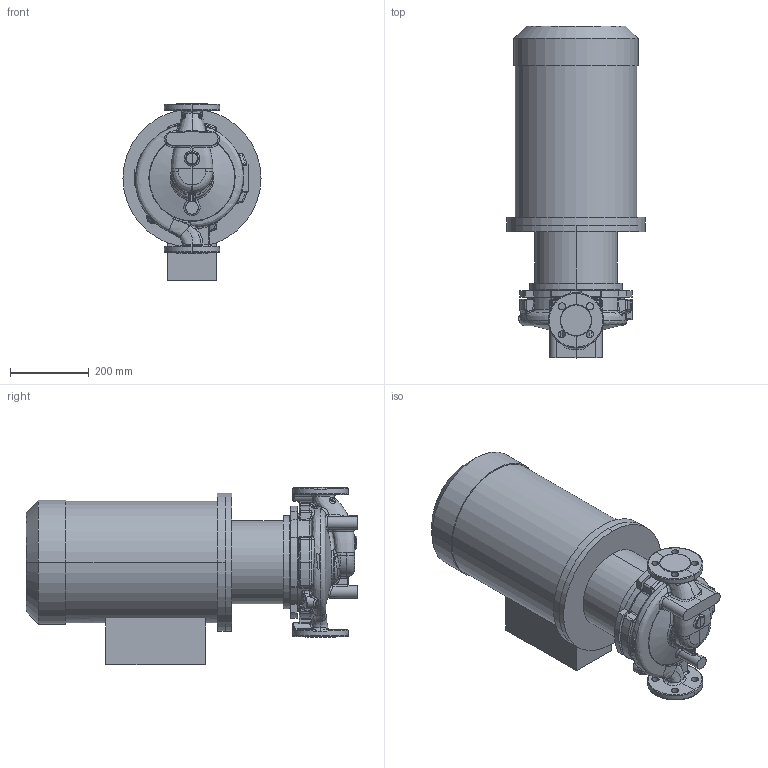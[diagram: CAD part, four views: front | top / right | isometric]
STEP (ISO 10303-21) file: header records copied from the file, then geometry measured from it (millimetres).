
FILE_DESCRIPTION (( 'STEP AP214' ), '1' );
FILE_NAME ('KRL 32-200-2-11.STEP', '2026-03-17T07:23:39', ( '' ), ( '' ), 'SwSTEP 2.0', 'SolidWorks 2016', '' );
FILE_SCHEMA (( 'AUTOMOTIVE_DESIGN' ));
Length unit declared in the file: millimetre
Products named in the file (1): KRL 32-200-2-11
Bounding box: 350 x 841.3 x 450 mm (x, y, z)
Volume: 55917390.9 mm3; surface area: 1581633.5 mm2
Topology: 4 solids, 4 shells, 710 faces, 1715 edges, 1010 vertices
Faces by surface type: bspline 336, cylinder 157, plane 110, cone 45, torus 35, sphere 27
Entity records: 60849 total; most frequent: CARTESIAN_POINT 39452, ORIENTED_EDGE 3380, DIRECTION 2098, EDGE_CURVE 1690, VERTEX_POINT 1010, AXIS2_PLACEMENT_3D 906, EDGE_LOOP 748, B_SPLINE_CURVE_WITH_KNOTS 728
